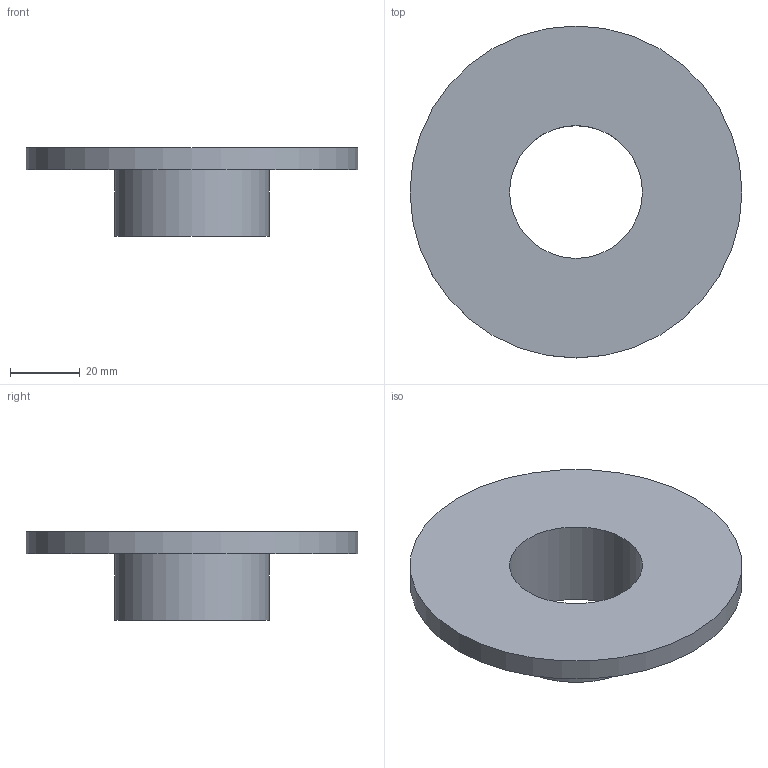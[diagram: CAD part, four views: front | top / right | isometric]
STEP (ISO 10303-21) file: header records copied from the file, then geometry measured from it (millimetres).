
FILE_DESCRIPTION((''),'2;1');
FILE_NAME('C:\REVIT SHARED FILES\STP\HG\HG-150.stp','2013-09-06T15:57:32',('rramoutar'),(''),'Autodesk Inventor 2012','Autodesk Inventor 2012','');
FILE_SCHEMA(('AUTOMOTIVE_DESIGN { 1 0 10303 214 1 1 1 1 }'));
Length unit declared in the file: inch
Products named in the file (1): HG-150
Bounding box: 95.25 x 95.25 x 25.4 mm (x, y, z)
Volume: 45850.7 mm3; surface area: 19571.6 mm2
Topology: 1 solids, 1 shells, 6 faces, 9 edges, 6 vertices
Faces by surface type: plane 3, cylinder 3
Full cylindrical faces by diameter (mm): 38.1 x1, 44.45 x1, 95.25 x1
Entity records: 156 total; most frequent: DIRECTION 26, CARTESIAN_POINT 19, AXIS2_PLACEMENT_3D 13, ORIENTED_EDGE 12, EDGE_LOOP 12, VERTEX_POINT 6, CIRCLE 6, EDGE_CURVE 6
